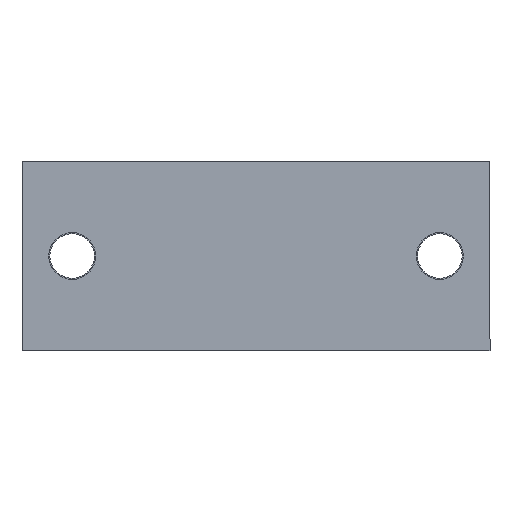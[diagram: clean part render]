
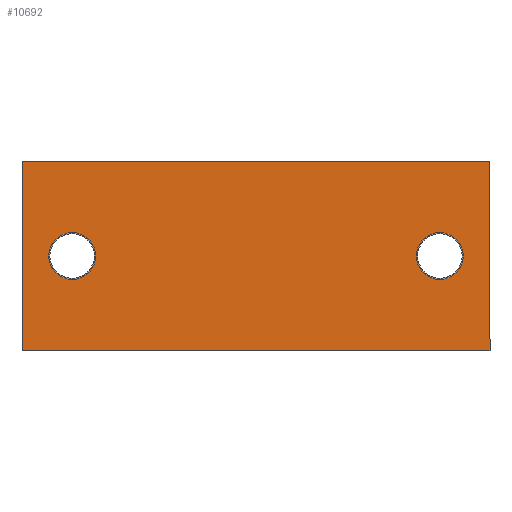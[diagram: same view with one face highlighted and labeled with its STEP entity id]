
A CAD part, front view. The second image highlights one B-rep face of the part: STEP entity #10692.
In plain terms, the highlighted planar face has unit normal (0, -1, 0).
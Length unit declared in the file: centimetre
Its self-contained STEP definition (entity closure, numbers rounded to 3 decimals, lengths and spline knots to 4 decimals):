
#1106=VECTOR('',#12195,1.);
#1642=VECTOR('',#13024,1.);
#1685=VECTOR('',#13124,1.);
#1686=VECTOR('',#13125,1.);
#2293=LINE('',#15363,#1106);
#2829=LINE('',#17208,#1642);
#2872=LINE('',#17332,#1685);
#2873=LINE('',#17333,#1686);
#3445=VERTEX_POINT('',#15364);
#3446=VERTEX_POINT('',#15365);
#3457=VERTEX_POINT('',#15389);
#3895=VERTEX_POINT('',#17209);
#3896=VERTEX_POINT('',#17210);
#3907=VERTEX_POINT('',#17234);
#4034=CIRCLE('',#17719,0.21);
#4072=CIRCLE('',#17954,0.21);
#4905=EDGE_CURVE('',#3445,#3446,#2293,.T.);
#4917=EDGE_CURVE('',#3457,#3457,#4034,.T.);
#5585=EDGE_CURVE('',#3895,#3896,#2829,.T.);
#5597=EDGE_CURVE('',#3907,#3907,#4072,.T.);
#5648=EDGE_CURVE('',#3446,#3895,#2872,.T.);
#5649=EDGE_CURVE('',#3896,#3445,#2873,.T.);
#8726=ORIENTED_EDGE('',*,*,#4917,.T.);
#8727=ORIENTED_EDGE('',*,*,#5597,.T.);
#8728=ORIENTED_EDGE('',*,*,#5648,.T.);
#8729=ORIENTED_EDGE('',*,*,#5585,.T.);
#8730=ORIENTED_EDGE('',*,*,#5649,.T.);
#8731=ORIENTED_EDGE('',*,*,#4905,.T.);
#9454=EDGE_LOOP('',(#8726));
#9455=EDGE_LOOP('',(#8727));
#9456=EDGE_LOOP('',(#8728,#8729,#8730,#8731));
#10106=FACE_BOUND('',#9454,.T.);
#10107=FACE_BOUND('',#9455,.T.);
#10108=FACE_BOUND('',#9456,.T.);
#10692=ADVANCED_FACE('',(#10106,#10107,#10108),#11096,.T.);
#11096=PLANE('',#17980);
#12195=DIRECTION('',(1.,0.,0.));
#12213=DIRECTION('',(0.,1.,0.));
#12214=DIRECTION('',(0.,0.,-0.21));
#13024=DIRECTION('',(-1.,0.,0.));
#13042=DIRECTION('',(0.,1.,0.));
#13043=DIRECTION('',(0.,0.,0.21));
#13123=DIRECTION('',(0.,-1.,0.));
#13124=DIRECTION('',(0.,0.,1.));
#13125=DIRECTION('',(0.,0.,-1.));
#15363=CARTESIAN_POINT('',(0.85,-0.95,-1.53));
#15364=CARTESIAN_POINT('',(-0.85,-0.95,-1.53));
#15365=CARTESIAN_POINT('',(0.85,-0.95,-1.53));
#15388=CARTESIAN_POINT('',(0.,-0.95,-1.08));
#15389=CARTESIAN_POINT('',(0.,-0.95,-0.87));
#17208=CARTESIAN_POINT('',(-0.85,-0.95,2.67));
#17209=CARTESIAN_POINT('',(0.85,-0.95,2.67));
#17210=CARTESIAN_POINT('',(-0.85,-0.95,2.67));
#17233=CARTESIAN_POINT('',(0.,-0.95,2.22));
#17234=CARTESIAN_POINT('',(0.,-0.95,2.01));
#17331=CARTESIAN_POINT('',(0.,-0.95,1.57));
#17332=CARTESIAN_POINT('',(0.85,-0.95,1.57));
#17333=CARTESIAN_POINT('',(-0.85,-0.95,-0.63));
#17719=AXIS2_PLACEMENT_3D('',#15388,#12213,#12214);
#17954=AXIS2_PLACEMENT_3D('',#17233,#13042,#13043);
#17980=AXIS2_PLACEMENT_3D('',#17331,#13123,$);
